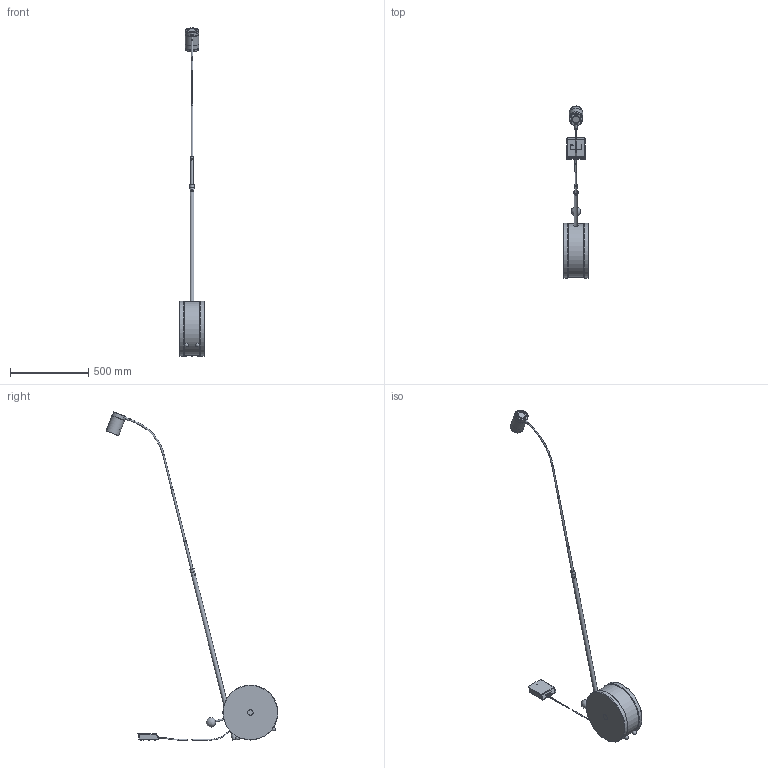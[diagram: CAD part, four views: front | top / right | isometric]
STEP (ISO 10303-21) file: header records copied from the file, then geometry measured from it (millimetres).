
FILE_DESCRIPTION(/* description */ (''),/* implementation_level */ '2;1');
FILE_NAME(/* name */ 'ASM chiocciola floor_MAX INCLINAZ.step',/* time_stamp */ '2023-03-02T15:14:07+01:00',/* author */ (''),/* organization */ (''),/* preprocessor_version */ 'ST-DEVELOPER v19.2',/* originating_system */ 'Autodesk Translation Framework v11.17.0.187',/* authorisation */ '');
FILE_SCHEMA (('AUTOMOTIVE_DESIGN { 1 0 10303 214 3 1 1 }'));
Products named in the file (62): ASM chiocciola floor; Gruppo Aste; Gruppo Scorrevole; Ass_Contrappeso Asta v5; Tige Fe M13x1 L20; Giunto Scorrevole per Chiocciola Floor; Molla a compress; Sfera D8; Chiocciola_Tubo_02; Chiocciola_Tubo_02_1; Chiocciola_Tubo_04; Grano Punta Piana M4x4; Chiocciola Boccola Asta 25; Chiocciola_Tubo_01; Assieme Pedale Quadro; BLOCCACAVO STEAB 5100_7_08_26; Dado M10x1_STEAB 5339; BLOCCACAVO STEAB 5100_7_08_26_1; STEAB 5408_4_10; PUSH-BUTTON; PULSANTE; 91800A015_18-8 Stainless Steel Narrow Cheese Head Slotted Screws; Ghiera bottone pedale; Driver  TCI 127492BIS; CALOTTA BL715-488787425; BASE BL714-488787424; BJB Terminal Block 2 Poles 46.412.1200.50; BJB Terminal Block 3 Poles 46.413.1214.50; 002YR0HY04-1; 002YR0HY04-2; Distanziatore Tasto pedale; Vite_TC M4x25; Vite_TC M3x15; Lamierino porta Tasto; Copertura Pedaliera Quadro; Base Pedaliera Quadro; Vite_TS M4x8; Vite_TC M4x6; Piedini Autoadesivi; 97985A530_Zinc-Plated Steel External-Tooth Lock Washer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
Assembly tree (86 placements, depth 5):
  ASM chiocciola floor
    Gruppo Aste
      Gruppo Scorrevole
        Ass_Contrappeso Asta v5
          Tige Fe M13x1 L20
          Giunto Scorrevole per Chiocciola Floor
          Molla a compress  x5
          Sfera D8  x5
        Chiocciola_Tubo_02
        Chiocciola_Tubo_02_1
        Chiocciola_Tubo_04
      Grano Punta Piana M4x4
      Chiocciola Boccola Asta 25
      Chiocciola_Tubo_01
    Assieme Pedale Quadro
      BLOCCACAVO STEAB 5100_7_08_26
        STEAB 5408_4_10
      Dado M10x1_STEAB 5339  x2
      BLOCCACAVO STEAB 5100_7_08_26_1
        STEAB 5408_4_10
      PUSH-BUTTON
        PULSANTE  x2
        91800A015_18-8 Stainless Steel Narrow Cheese Head Slotted Screws  x2
      Ghiera bottone pedale
      Driver  TCI 127492BIS
        CALOTTA BL715-488787425
        BASE BL714-488787424
      BJB Terminal Block 2 Poles 46.412.1200.50
      BJB Terminal Block 3 Poles 46.413.1214.50
        002YR0HY04-1
        002YR0HY04-2
      Distanziatore Tasto pedale  x2
      Vite_TC M4x25  x2
      Vite_TC M3x15  x2
      Lamierino porta Tasto
      Copertura Pedaliera Quadro
      Base Pedaliera Quadro
      Vite_TS M4x8  x2
      Vite_TC M4x6  x2
      Piedini Autoadesivi  x4
      97985A530_Zinc-Plated Steel External-Tooth Lock Washer
      Vite_TC M4x4
    Chiocciola Ruota in Legno
    Chiocciola Flangia U
    Chioccila Flangia Interna
    Chiocciola Perno Sfera
    Chiocciola Sfera
    Chiocciola Dado Cilindrico Ruota  x2
    Chiocciola Sferetta Finecorsa Floor  x4
    Chiocciola Ruota in Marmo  x2
    Rondella Nylon De30 Di10 Sp0,5
    Chiocciola Piede Floor
    Rayconn - ALT85 - Braccio 30
      SPOT
      ARM
      COB LENS
      LED PCB v12
        LAMIERA LED SUPERIORE v12
        LED GROUP
          LED (1)
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Bounding box: 157 x 1093.65 x 2090.58 mm (x, y, z)
Volume: 14599774 mm3; surface area: 1412829.4 mm2
Topology: 79 solids, 79 shells, 3465 faces, 8751 edges, 5598 vertices
Faces by surface type: plane 1720, cylinder 833, bspline 535, torus 156, cone 116, sphere 105
Full cylindrical faces by diameter (mm): 1.2 x5, 1.933 x2, 2.3 x10, 2.4 x5, 2.5 x4, 2.529 x3, 2.927 x2, 3 x4, 3.332 x7, 3.5 x4, 3.8 x2, 3.9 x5, 3.908 x8, 4.2 x3, 4.3 x1, 4.5 x9, 4.901 x4, 5 x8, 5.6 x3, 5.8 x2, 6 x7, 6.035 x2, 6.884 x2, 7 x2, 7.2 x2, 8 x8, 8.1 x5, 8.526 x1, 9 x1, 9.036 x8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
Entity records: 124786 total; most frequent: CARTESIAN_POINT 45354, ORIENTED_EDGE 16284, DIRECTION 15519, EDGE_CURVE 8142, AXIS2_PLACEMENT_3D 5426, VERTEX_POINT 5215, LINE 4667, VECTOR 4667
